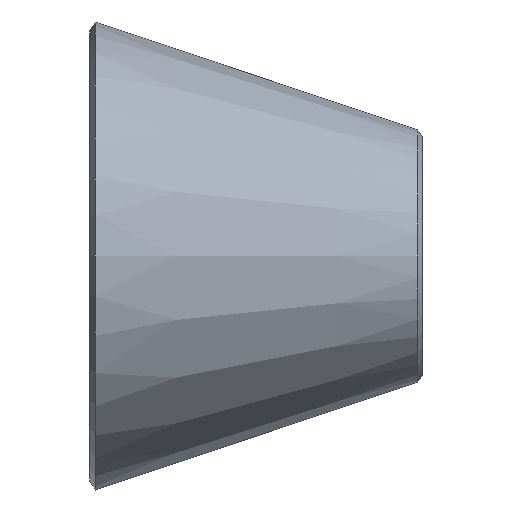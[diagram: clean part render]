
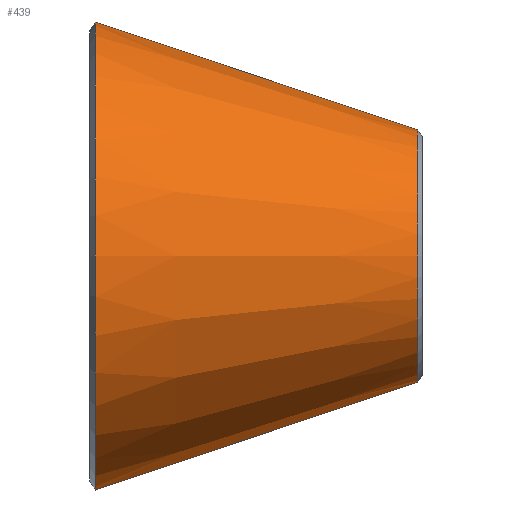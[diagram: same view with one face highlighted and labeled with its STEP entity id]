
A CAD part, front view. The second image highlights one B-rep face of the part: STEP entity #439.
In plain terms, the highlighted conical face has half-angle 18.503 degrees and reference radius 57.15 mm.
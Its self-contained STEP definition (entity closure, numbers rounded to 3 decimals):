
#13 = DIRECTION ( 'NONE',  ( -1., 0., 0. ) ) ;
#39 = ORIENTED_EDGE ( 'NONE', *, *, #45, .T. ) ;
#42 = AXIS2_PLACEMENT_3D ( 'NONE', #364, #13, #162 ) ;
#45 = EDGE_CURVE ( 'NONE', #360, #367, #444, .T. ) ;
#48 = ORIENTED_EDGE ( 'NONE', *, *, #74, .F. ) ;
#51 = ORIENTED_EDGE ( 'NONE', *, *, #140, .F. ) ;
#54 = CARTESIAN_POINT ( 'NONE',  ( 152.4, 0., -57.15 ) ) ;
#68 = CARTESIAN_POINT ( 'NONE',  ( 2.573, 0., -107.289 ) ) ;
#69 = VECTOR ( 'NONE', #427, 1000. ) ;
#74 = EDGE_CURVE ( 'NONE', #149, #94, #363, .T. ) ;
#84 = CARTESIAN_POINT ( 'NONE',  ( 2.573, 0., 107.289 ) ) ;
#94 = VERTEX_POINT ( 'NONE', #68 ) ;
#103 = CARTESIAN_POINT ( 'NONE',  ( 150.457, 0., 0. ) ) ;
#131 = EDGE_CURVE ( 'NONE', #149, #360, #479, .T. ) ;
#140 = EDGE_CURVE ( 'NONE', #94, #367, #472, .T. ) ;
#149 = VERTEX_POINT ( 'NONE', #213 ) ;
#162 = DIRECTION ( 'NONE',  ( 0., 0., 1. ) ) ;
#182 = AXIS2_PLACEMENT_3D ( 'NONE', #252, #258, #221 ) ;
#202 = DIRECTION ( 'NONE',  ( -0.948, 0., 0.317 ) ) ;
#208 = VECTOR ( 'NONE', #202, 1000. ) ;
#213 = CARTESIAN_POINT ( 'NONE',  ( 150.457, 0., -57.8 ) ) ;
#221 = DIRECTION ( 'NONE',  ( 0., 0., 1. ) ) ;
#236 = CARTESIAN_POINT ( 'NONE',  ( 150.457, 0., 57.8 ) ) ;
#237 = CARTESIAN_POINT ( 'NONE',  ( 152.4, 0., 57.15 ) ) ;
#252 = CARTESIAN_POINT ( 'NONE',  ( 2.573, 0., 0. ) ) ;
#258 = DIRECTION ( 'NONE',  ( -1., 0., 0. ) ) ;
#262 = DIRECTION ( 'NONE',  ( -1., 0., 0. ) ) ;
#355 = ORIENTED_EDGE ( 'NONE', *, *, #131, .T. ) ;
#360 = VERTEX_POINT ( 'NONE', #236 ) ;
#363 = LINE ( 'NONE', #54, #69 ) ;
#364 = CARTESIAN_POINT ( 'NONE',  ( 152.4, 0., 0. ) ) ;
#367 = VERTEX_POINT ( 'NONE', #84 ) ;
#380 = DIRECTION ( 'NONE',  ( 0., 0., 1. ) ) ;
#392 = AXIS2_PLACEMENT_3D ( 'NONE', #103, #262, #380 ) ;
#404 = FACE_OUTER_BOUND ( 'NONE', #483, .T. ) ;
#427 = DIRECTION ( 'NONE',  ( -0.948, 0., -0.317 ) ) ;
#439 = ADVANCED_FACE ( 'NONE', ( #404 ), #487, .T. ) ;
#444 = LINE ( 'NONE', #237, #208 ) ;
#472 = CIRCLE ( 'NONE', #182, 107.289 ) ;
#479 = CIRCLE ( 'NONE', #392, 57.8 ) ;
#483 = EDGE_LOOP ( 'NONE', ( #48, #355, #39, #51 ) ) ;
#487 = CONICAL_SURFACE ( 'NONE', #42, 57.15, 0.323 ) ;
